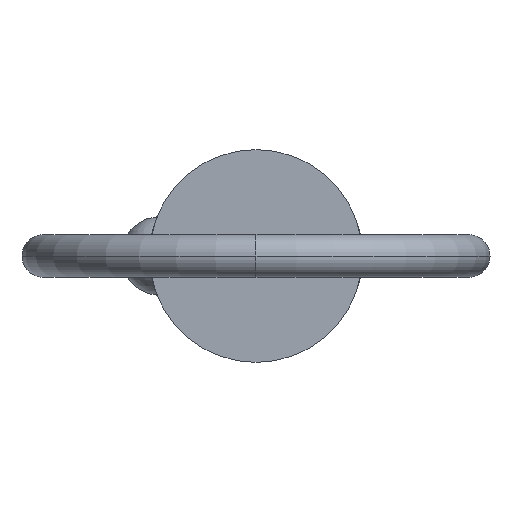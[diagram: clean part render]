
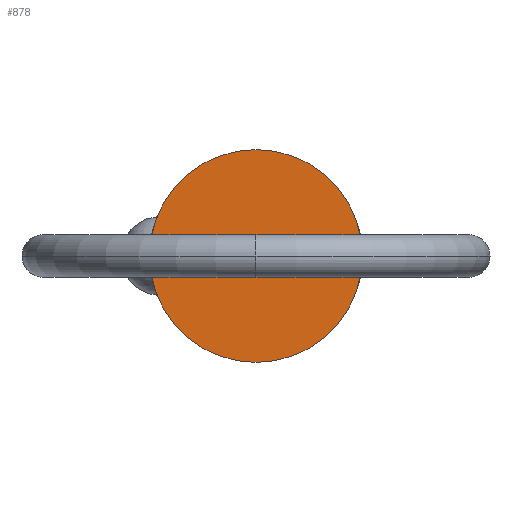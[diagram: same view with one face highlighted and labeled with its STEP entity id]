
A CAD part, left-side view. The second image highlights one B-rep face of the part: STEP entity #878.
In plain terms, the highlighted planar face has unit normal (-1, 0, 0).
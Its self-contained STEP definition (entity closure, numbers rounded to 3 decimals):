
#46 = DIRECTION ( 'NONE',  ( 0., 0., -1. ) ) ;
#118 = AXIS2_PLACEMENT_3D ( 'NONE', #612, #677, #46 ) ;
#138 = CARTESIAN_POINT ( 'NONE',  ( 0., 0., 0. ) ) ;
#146 = FACE_OUTER_BOUND ( 'NONE', #734, .T. ) ;
#161 = VERTEX_POINT ( 'NONE', #167 ) ;
#167 = CARTESIAN_POINT ( 'NONE',  ( 0., 0., 7.94 ) ) ;
#190 = CIRCLE ( 'NONE', #886, 7.94 ) ;
#209 = EDGE_CURVE ( 'NONE', #161, #334, #190, .T. ) ;
#224 = PLANE ( 'NONE',  #754 ) ;
#311 = EDGE_CURVE ( 'NONE', #334, #161, #885, .T. ) ;
#334 = VERTEX_POINT ( 'NONE', #394 ) ;
#394 = CARTESIAN_POINT ( 'NONE',  ( 0., 0., -7.94 ) ) ;
#402 = ORIENTED_EDGE ( 'NONE', *, *, #311, .F. ) ;
#496 = DIRECTION ( 'NONE',  ( 1., 0., 0. ) ) ;
#604 = ORIENTED_EDGE ( 'NONE', *, *, #209, .F. ) ;
#612 = CARTESIAN_POINT ( 'NONE',  ( 0., 0., 0. ) ) ;
#663 = CARTESIAN_POINT ( 'NONE',  ( 0., 0., 0. ) ) ;
#677 = DIRECTION ( 'NONE',  ( 1., 0., 0. ) ) ;
#734 = EDGE_LOOP ( 'NONE', ( #402, #604 ) ) ;
#754 = AXIS2_PLACEMENT_3D ( 'NONE', #138, #894, #844 ) ;
#842 = DIRECTION ( 'NONE',  ( 0., 0., -1. ) ) ;
#844 = DIRECTION ( 'NONE',  ( 0., 0., 1. ) ) ;
#878 = ADVANCED_FACE ( 'NONE', ( #146 ), #224, .T. ) ;
#885 = CIRCLE ( 'NONE', #118, 7.94 ) ;
#886 = AXIS2_PLACEMENT_3D ( 'NONE', #663, #496, #842 ) ;
#894 = DIRECTION ( 'NONE',  ( -1., 0., 0. ) ) ;
